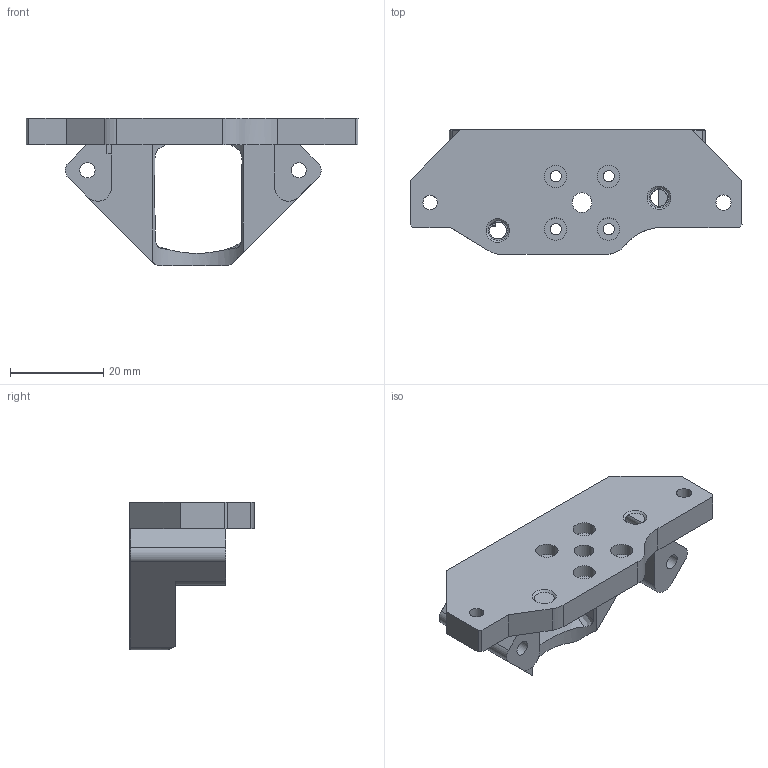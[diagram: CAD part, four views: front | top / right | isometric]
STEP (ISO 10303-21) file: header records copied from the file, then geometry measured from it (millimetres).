
FILE_DESCRIPTION(/* description */ (''),/* implementation_level */ '2;1');
FILE_NAME(/* name */ 'C:/Users/Martin/Documents/icarus-2.1/icarus-2-current-step-files/2-mounts/mount-orbiter-1.5-dragon-2.1.step',/* time_stamp */ '2022-08-22T21:30:32+02:00',/* author */ (''),/* organization */ (''),/* preprocessor_version */ 'ST-DEVELOPER v19',/* originating_system */ 'Autodesk Translation Framework v11.7.0.108',/* authorisation */ '');
FILE_SCHEMA (('AUTOMOTIVE_DESIGN { 1 0 10303 214 3 1 1 }'));
Length unit declared in the file: millimetre
Products named in the file (1): icarus-2-hotend-extruder-mounts
Bounding box: 71.07 x 26.66 x 31.68 mm (x, y, z)
Volume: 13614.8 mm3; surface area: 7546 mm2
Topology: 1 solids, 1 shells, 90 faces, 262 edges, 175 vertices
Faces by surface type: plane 39, cylinder 25, bspline 14, cone 12
Full cylindrical faces by diameter (mm): 2.4 x4, 3.1 x1, 3.25 x4, 3.6 x2, 4.2 x1, 4.8 x4
Entity records: 3697 total; most frequent: CARTESIAN_POINT 1283, ORIENTED_EDGE 524, DIRECTION 443, EDGE_CURVE 262, VERTEX_POINT 175, AXIS2_PLACEMENT_3D 152, LINE 139, VECTOR 139
